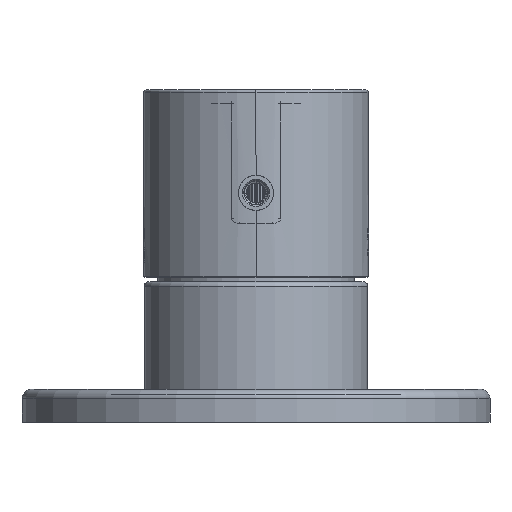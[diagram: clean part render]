
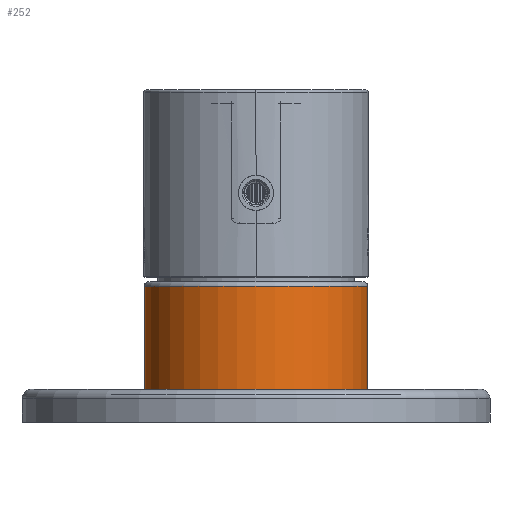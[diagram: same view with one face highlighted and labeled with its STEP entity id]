
A CAD part, front view. The second image highlights one B-rep face of the part: STEP entity #252.
In plain terms, the highlighted cylindrical face has radius 23.9 mm (diameter 47.8 mm), a partial arc.
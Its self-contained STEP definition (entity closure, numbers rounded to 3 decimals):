
#11=CARTESIAN_POINT('',(0.,0.,0.));
#12=DIRECTION('',(0.,0.,1.));
#13=DIRECTION('',(-1.,0.,0.));
#14=AXIS2_PLACEMENT_3D('',#11,#12,#13);
#16=DIRECTION('',(0.,0.,-1.));
#17=VECTOR('',#16,29.);
#18=CARTESIAN_POINT('',(-23.9,0.,29.));
#19=LINE('',#18,#17);
#20=CARTESIAN_POINT('',(0.,0.,29.));
#21=DIRECTION('',(0.,0.,-1.));
#22=DIRECTION('',(1.,0.,0.));
#23=AXIS2_PLACEMENT_3D('',#20,#21,#22);
#25=DIRECTION('',(0.,0.,-1.));
#26=VECTOR('',#25,29.);
#27=CARTESIAN_POINT('',(23.9,0.,29.));
#28=LINE('',#27,#26);
#167=CARTESIAN_POINT('',(23.9,0.,29.));
#168=CARTESIAN_POINT('',(-23.9,0.,29.));
#169=VERTEX_POINT('',#167);
#170=VERTEX_POINT('',#168);
#199=CARTESIAN_POINT('',(23.9,0.,0.));
#200=CARTESIAN_POINT('',(-23.9,0.,0.));
#201=VERTEX_POINT('',#199);
#202=VERTEX_POINT('',#200);
#240=CARTESIAN_POINT('',(0.,0.,-6.75));
#241=DIRECTION('',(0.,0.,1.));
#242=DIRECTION('',(-1.,0.,0.));
#243=AXIS2_PLACEMENT_3D('',#240,#241,#242);
#244=CYLINDRICAL_SURFACE('',#243,23.9);
#245=ORIENTED_EDGE('',*,*,#214,.F.);
#246=ORIENTED_EDGE('',*,*,#235,.F.);
#248=ORIENTED_EDGE('',*,*,#247,.F.);
#249=ORIENTED_EDGE('',*,*,#231,.T.);
#250=EDGE_LOOP('',(#245,#246,#248,#249));
#251=FACE_OUTER_BOUND('',#250,.F.);
#252=ADVANCED_FACE('',(#251),#244,.T.);
#15=CIRCLE('',#14,23.9);
#24=CIRCLE('',#23,23.9);
#214=EDGE_CURVE('',#202,#201,#15,.T.);
#231=EDGE_CURVE('',#169,#201,#28,.T.);
#235=EDGE_CURVE('',#170,#202,#19,.T.);
#247=EDGE_CURVE('',#169,#170,#24,.T.);
